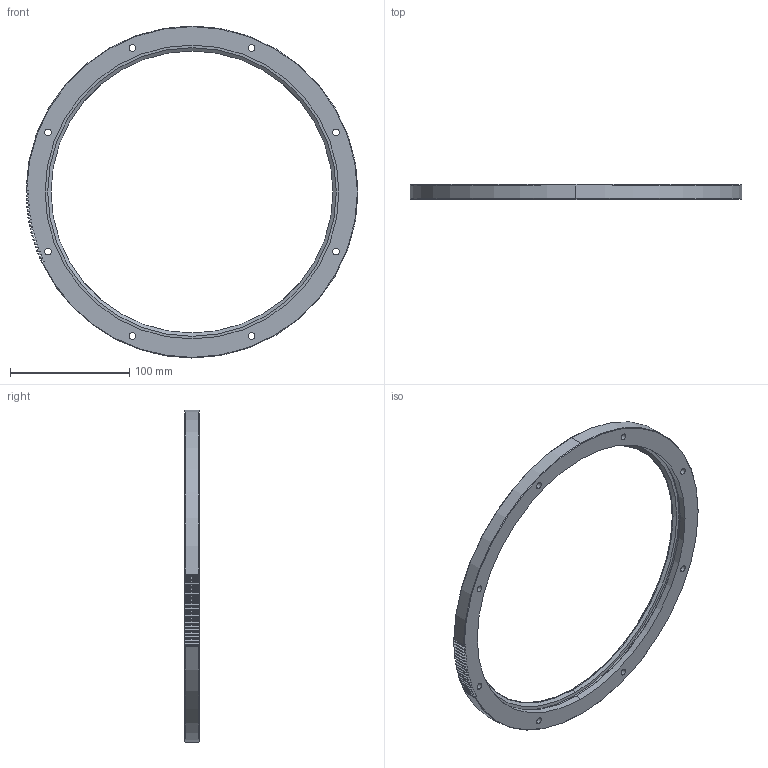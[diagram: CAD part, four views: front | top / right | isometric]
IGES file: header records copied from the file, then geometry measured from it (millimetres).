
Start section: 3D InterOp IGES (v. 2020 1.0.1), Spatial Corp. Copyright (c) 1999-2017.
Global section: file name: ris_278_r360_p.igs; native system: Spatial Corp.; preprocessor: 3D InterOp ACIS/IGES; author: TraceParts; organization: TraceParts S.A.; date: 20220624.060706; units: millimetre
Bounding box: 278 x 12.25 x 278 mm (x, y, z)
Surface area: 54831.6 mm2 (no closed solid volume)
Topology: 0 solids, 0 shells, 207 faces, 1154 edges, 1154 vertices
Faces by surface type: extrusion 114, revolution 93
